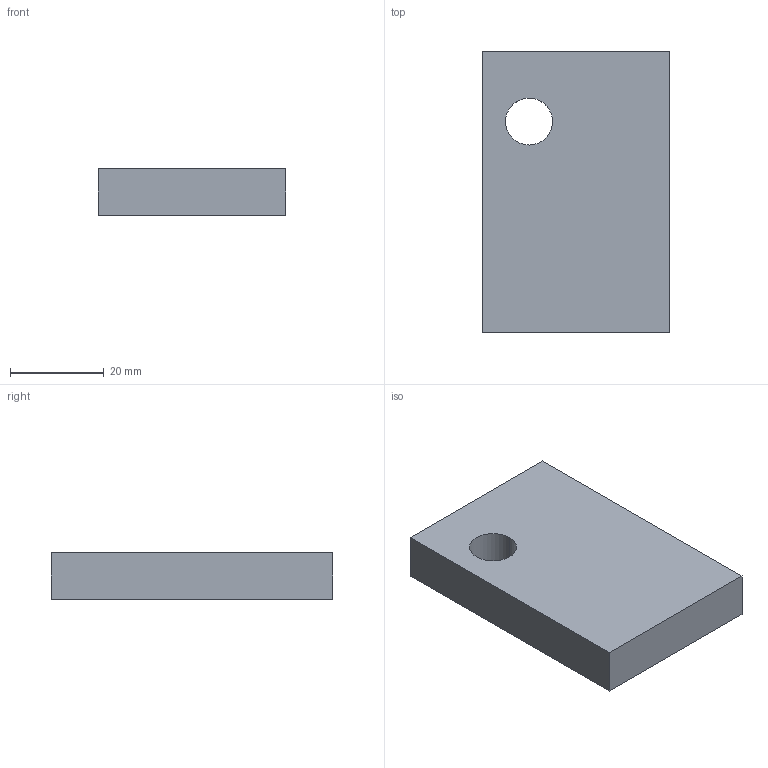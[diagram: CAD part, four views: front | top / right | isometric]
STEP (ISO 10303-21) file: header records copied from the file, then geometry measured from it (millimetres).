
FILE_DESCRIPTION(/* description */ ('AP242 STEP file','CAx-IF Rec.Pracs.---Geometric and Assembly Validation Properties---4.4--2015-08-17','CAx-IF Rec.Pracs.---Representation and Presentation of Product Manufacturing Information (PMI)---4.0.9---2020-12-09','CAx-IF Rec.Pracs.---User Defined Attributes---1.8---2021-02-18','CAx-IF Rec.Pracs.---3D Tessellated Geometry---1.0---2015-12-17','CAx-IF Rec.Pracs.---Model Styling and Organization---1.6---2018-08-17','CAx-IF Rec.Pracs.---Persistent IDs---1.20---2024-12-12'),/* implementation_level */ '2;1');
FILE_NAME(/* name */ 'PDI_R55J_V5_6R2023_0-0.stp',/* time_stamp */ '2025-06-25T11:32:21+09:00',/* author */ ('Elysium 3DxSUITE Translator'),/* organization */ ('Elysium'),/* preprocessor_version */ 'ST-DEVELOPER v20',/* originating_system */ 'Elysium STEP Translator v11.0.0.3',/* authorisation */ '');
FILE_SCHEMA (('AP242_MANAGED_MODEL_BASED_3D_ENGINEERING_MIM_LF { 1 0 10303 442 4 1 4 }'));
Length unit declared in the file: millimetre
Products named in the file (1): V5_Plate_w_Hole
Bounding box: 40 x 60 x 10 mm (x, y, z)
Volume: 23214.6 mm3; surface area: 6957.1 mm2
Topology: 1 solids, 1 shells, 8 faces, 22 edges, 21 vertices
Faces by surface type: plane 6, cylinder 2
Entity records: 749 total; most frequent: CARTESIAN_POINT 69, INTEGER_REPRESENTATION_ITEM 47, STYLED_ITEM 42, AXIS2_PLACEMENT_3D 41, ORIENTED_EDGE 36, V5_UUID_ATTRIBUTE 31, COORDINATES_LIST 26, PROPERTY_DEFINITION_REPRESENTATION 23
